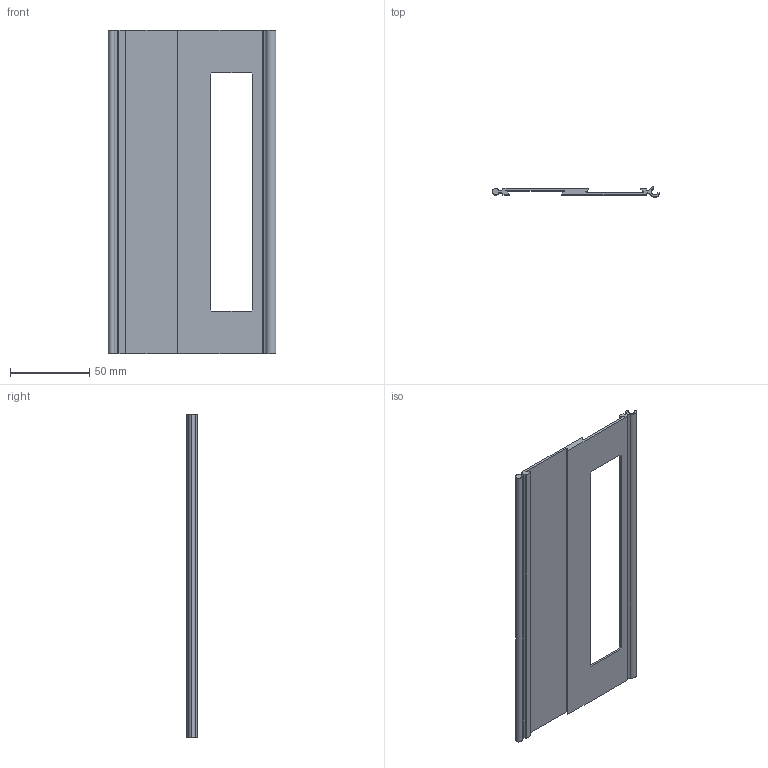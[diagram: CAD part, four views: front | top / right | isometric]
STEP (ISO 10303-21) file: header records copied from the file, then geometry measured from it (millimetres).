
FILE_DESCRIPTION((''),'2;1');
FILE_NAME('EAP-10L8C_L12C','2022-09-03T',('daizh'),(''),'CREO PARAMETRIC BY PTC INC, 2018360','CREO PARAMETRIC BY PTC INC, 2018360','');
FILE_SCHEMA(('CONFIG_CONTROL_DESIGN'));
Length unit declared in the file: millimetre
Products named in the file (1): EAP-10L8C_L12C
Bounding box: 105.17 x 6.44 x 203.2 mm (x, y, z)
Volume: 39443.1 mm3; surface area: 43237.8 mm2
Topology: 1 solids, 1 shells, 54 faces, 156 edges, 104 vertices
Faces by surface type: plane 39, cylinder 15
Entity records: 1812 total; most frequent: CARTESIAN_POINT 314, ORIENTED_EDGE 312, DIRECTION 294, EDGE_CURVE 156, VECTOR 126, LINE 126, VERTEX_POINT 104, AXIS2_PLACEMENT_3D 84
